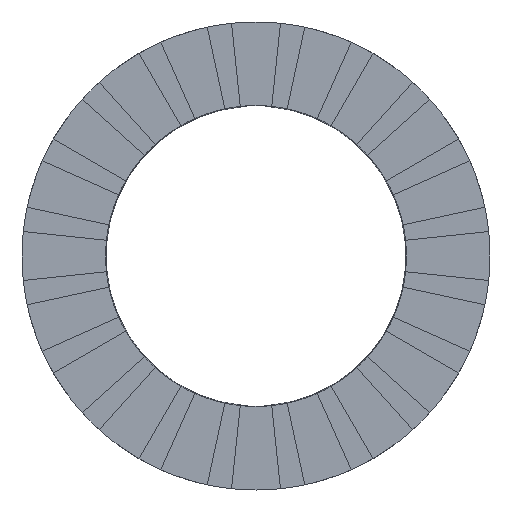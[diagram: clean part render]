
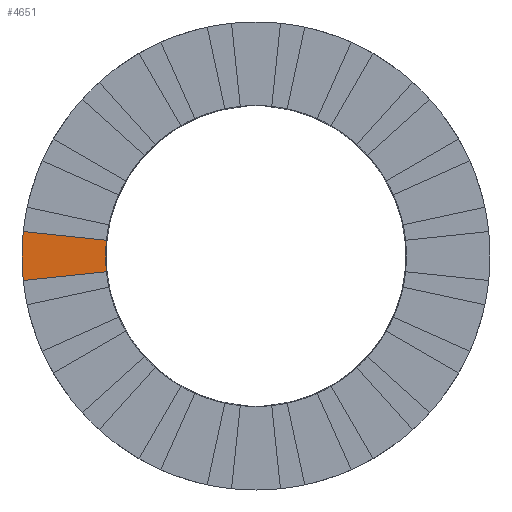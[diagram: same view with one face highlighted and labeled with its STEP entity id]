
A CAD part, front view. The second image highlights one B-rep face of the part: STEP entity #4651.
In plain terms, the highlighted planar face has unit normal (0, -1, 0).
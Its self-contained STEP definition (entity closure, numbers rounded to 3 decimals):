
#64 = CARTESIAN_POINT ( 'NONE',  ( 0., 0., 0. ) ) ;
#115 = EDGE_CURVE ( 'NONE', #5616, #4839, #3173, .T. ) ;
#283 = DIRECTION ( 'NONE',  ( 0., 0., 1. ) ) ;
#442 = EDGE_CURVE ( 'NONE', #2108, #3605, #5133, .T. ) ;
#486 = CIRCLE ( 'NONE', #1775, 3.5 ) ;
#580 = EDGE_CURVE ( 'NONE', #3605, #5616, #486, .T. ) ;
#782 = AXIS2_PLACEMENT_3D ( 'NONE', #1020, #1042, #3967 ) ;
#788 = VECTOR ( 'NONE', #2271, 1000. ) ;
#1020 = CARTESIAN_POINT ( 'NONE',  ( 0., 0., 0. ) ) ;
#1042 = DIRECTION ( 'NONE',  ( 0., 1., 0. ) ) ;
#1202 = ORIENTED_EDGE ( 'NONE', *, *, #2474, .T. ) ;
#1491 = CARTESIAN_POINT ( 'NONE',  ( -2.238, 0., -0.235 ) ) ;
#1714 = DIRECTION ( 'NONE',  ( 0., 1., 0. ) ) ;
#1775 = AXIS2_PLACEMENT_3D ( 'NONE', #64, #1714, #283 ) ;
#2108 = VERTEX_POINT ( 'NONE', #1491 ) ;
#2153 = CIRCLE ( 'NONE', #782, 2.25 ) ;
#2178 = CARTESIAN_POINT ( 'NONE',  ( -2.238, 0., 0.235 ) ) ;
#2260 = DIRECTION ( 'NONE',  ( 0., 0., 1. ) ) ;
#2271 = DIRECTION ( 'NONE',  ( -0.995, 0., -0.105 ) ) ;
#2474 = EDGE_CURVE ( 'NONE', #2108, #4839, #2153, .T. ) ;
#2798 = DIRECTION ( 'NONE',  ( 0.995, 0., -0.105 ) ) ;
#2802 = ORIENTED_EDGE ( 'NONE', *, *, #115, .F. ) ;
#3015 = DIRECTION ( 'NONE',  ( 0., 1., 0. ) ) ;
#3173 = LINE ( 'NONE', #2178, #5321 ) ;
#3605 = VERTEX_POINT ( 'NONE', #4863 ) ;
#3739 = ORIENTED_EDGE ( 'NONE', *, *, #580, .F. ) ;
#3967 = DIRECTION ( 'NONE',  ( 0., 0., 1. ) ) ;
#4149 = EDGE_LOOP ( 'NONE', ( #3739, #5473, #1202, #2802 ) ) ;
#4322 = CARTESIAN_POINT ( 'NONE',  ( -2.238, 0., -0.235 ) ) ;
#4570 = CARTESIAN_POINT ( 'NONE',  ( -2.238, 0., 0.235 ) ) ;
#4651 = ADVANCED_FACE ( 'NONE', ( #5188 ), #5623, .F. ) ;
#4675 = CARTESIAN_POINT ( 'NONE',  ( -3.481, 0., 0.366 ) ) ;
#4839 = VERTEX_POINT ( 'NONE', #4570 ) ;
#4863 = CARTESIAN_POINT ( 'NONE',  ( -3.481, 0., -0.366 ) ) ;
#5133 = LINE ( 'NONE', #4322, #788 ) ;
#5147 = AXIS2_PLACEMENT_3D ( 'NONE', #5603, #3015, #2260 ) ;
#5188 = FACE_OUTER_BOUND ( 'NONE', #4149, .T. ) ;
#5321 = VECTOR ( 'NONE', #2798, 1000. ) ;
#5473 = ORIENTED_EDGE ( 'NONE', *, *, #442, .F. ) ;
#5603 = CARTESIAN_POINT ( 'NONE',  ( 0., 0., 0. ) ) ;
#5616 = VERTEX_POINT ( 'NONE', #4675 ) ;
#5623 = PLANE ( 'NONE',  #5147 ) ;
